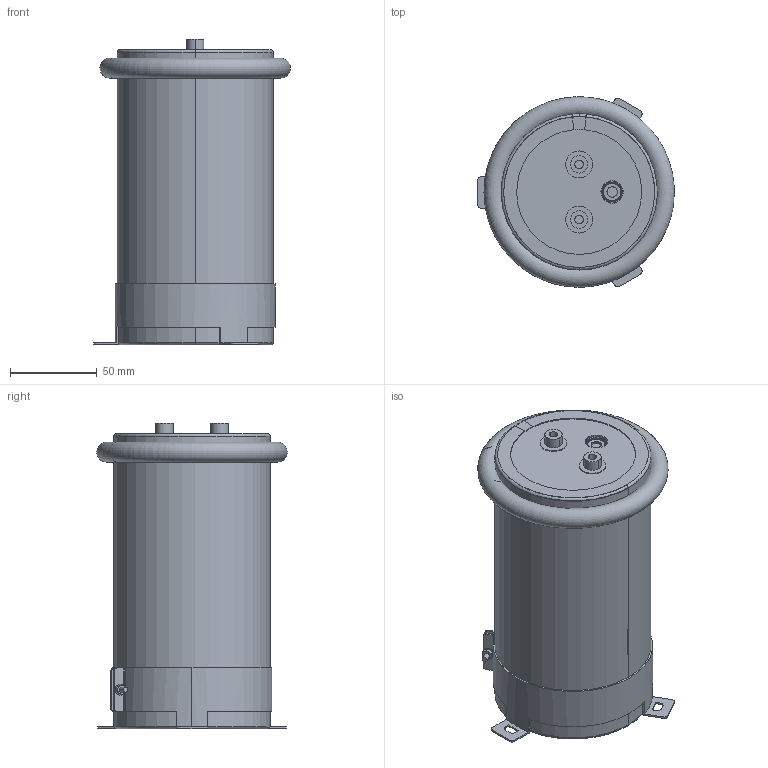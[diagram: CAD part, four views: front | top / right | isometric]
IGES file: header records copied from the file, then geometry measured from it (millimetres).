
Start section: 3D InterOp IGES (v. 2019 1.0.2), Spatial Corp. Copyright (c) 1999-2017.
Global section: file name: 90x170_Screw.igs; native system: Spatial Corp.; preprocessor: 3D InterOp ACIS/IGES; author: Noname; organization: Noname; date: 20220314.175409; units: millimetre
Bounding box: 113.35 x 109.69 x 176 mm (x, y, z)
Volume: 1426180.9 mm3; surface area: 324178.1 mm2
Topology: 9 solids, 9 shells, 352 faces, 953 edges, 591 vertices
Faces by surface type: plane 112, cylinder 110, torus 90, cone 38, sphere 2
